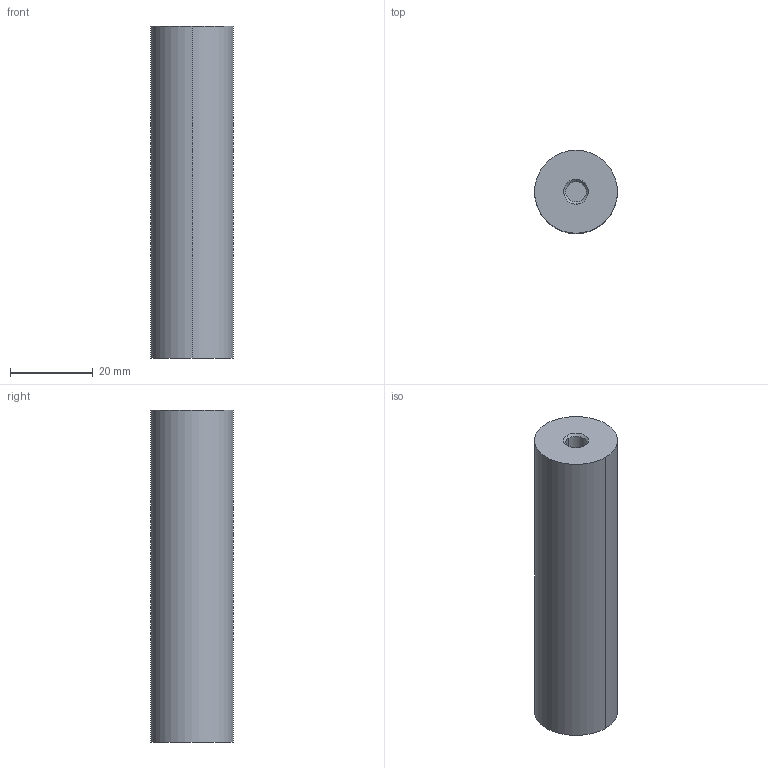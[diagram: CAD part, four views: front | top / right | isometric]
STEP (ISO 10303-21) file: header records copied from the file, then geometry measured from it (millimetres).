
FILE_DESCRIPTION(/* description */ ('VariCAD 2010-3.03 AP-214'),/* implementation_level */ '2;1');
FILE_NAME(/* name */ '0353-19-55',/* time_stamp */ '2011-01-17T17:24:56-07:00',/* author */ (''),/* organization */ (''),/* preprocessor_version */ 'ST-DEVELOPER v12',/* originating_system */ 'VariCAD 2010-3.03; kernel version (20100102)',/* authorisation */ '');
FILE_SCHEMA (('AUTOMOTIVE_DESIGN'));
Length unit declared in the file: millimetre
Products named in the file (1): Part
Bounding box: 20 x 20 x 80 mm (x, y, z)
Volume: 24486.8 mm3; surface area: 7092.3 mm2
Topology: 3 solids, 3 shells, 30 faces, 58 edges, 36 vertices
Faces by surface type: cylinder 18, plane 8, cone 4
Entity records: 1042 total; most frequent: DIRECTION 162, CARTESIAN_POINT 128, ORIENTED_EDGE 116, AXIS2_PLACEMENT_3D 70, EDGE_CURVE 58, EDGE_LOOP 36, CIRCLE 36, VERTEX_POINT 36
